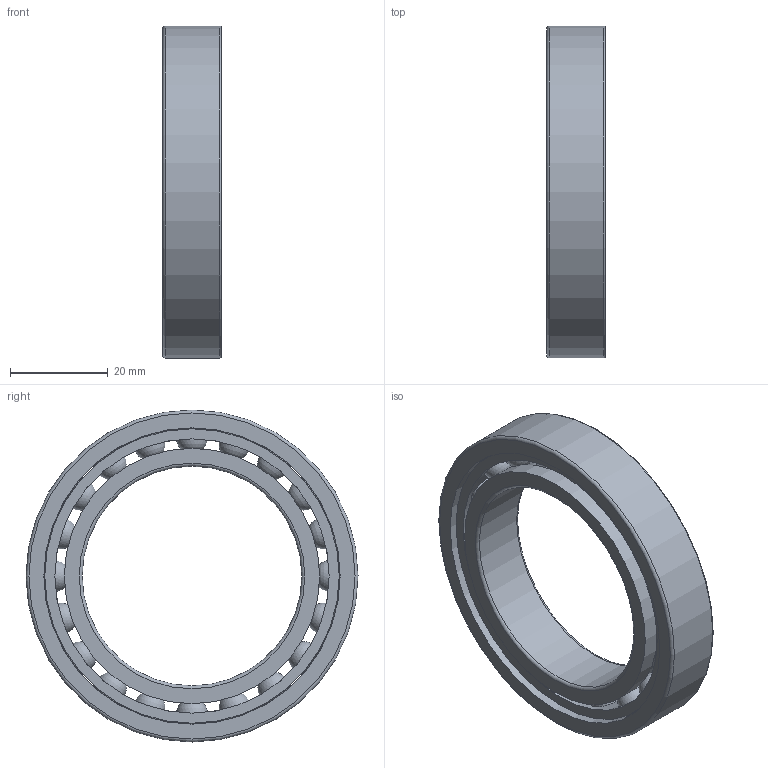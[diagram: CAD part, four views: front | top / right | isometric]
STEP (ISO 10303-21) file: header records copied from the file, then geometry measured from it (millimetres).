
FILE_DESCRIPTION(/* description */ (''),/* implementation_level */ '2;1');
FILE_NAME(/* name */ 'S_61909_TA.step',/* time_stamp */ '2013-03-06T14:48:21+01:00',/* author */ ('Marian'),/* organization */ ('GMN'),/* preprocessor_version */ 'ST-DEVELOPER v11',/* originating_system */ 'SIEMENS UGS NX 6.0',/* authorisation */ '');
FILE_SCHEMA (('CONFIG_CONTROL_DESIGN'));
Length unit declared in the file: millimetre
Products named in the file (1): S_61909_TA
Bounding box: 12 x 68 x 68 mm (x, y, z)
Volume: 18110.4 mm3; surface area: 17026.9 mm2
Topology: 23 solids, 23 shells, 60 faces, 158 edges, 102 vertices
Faces by surface type: cylinder 27, sphere 20, torus 6, plane 6, cone 1
Full cylindrical faces by diameter (mm): 6.55 x20, 45 x1, 52.3 x2, 56.19 x1, 60.3 x1, 60.7 x1, 68 x1
Entity records: 3578 total; most frequent: CARTESIAN_POINT 2481, DIRECTION 162, FACE_BOUND 140, EDGE_LOOP 120, ORIENTED_EDGE 120, AXIS2_PLACEMENT_3D 81, VERTEX_POINT 80, EDGE_CURVE 60
